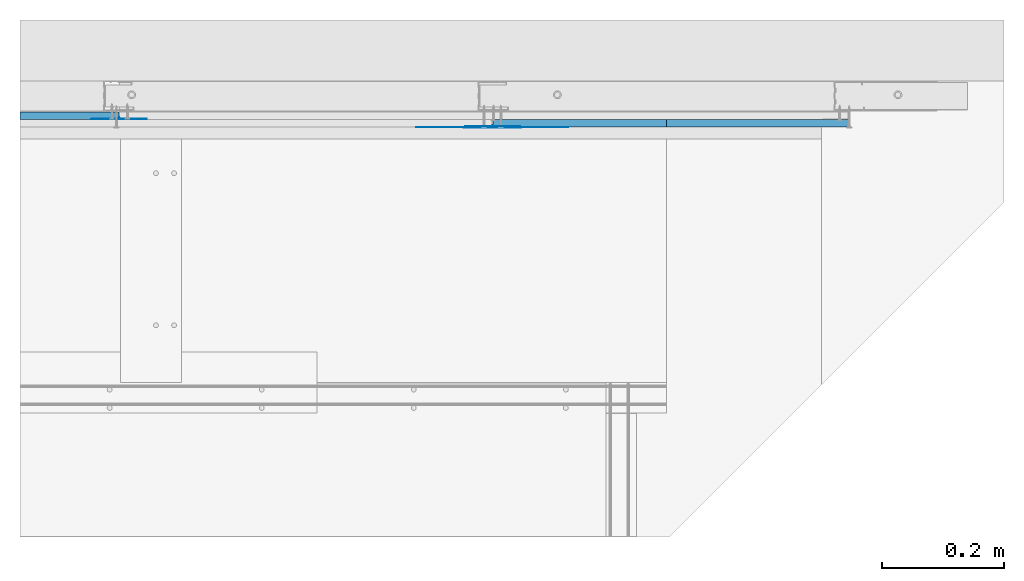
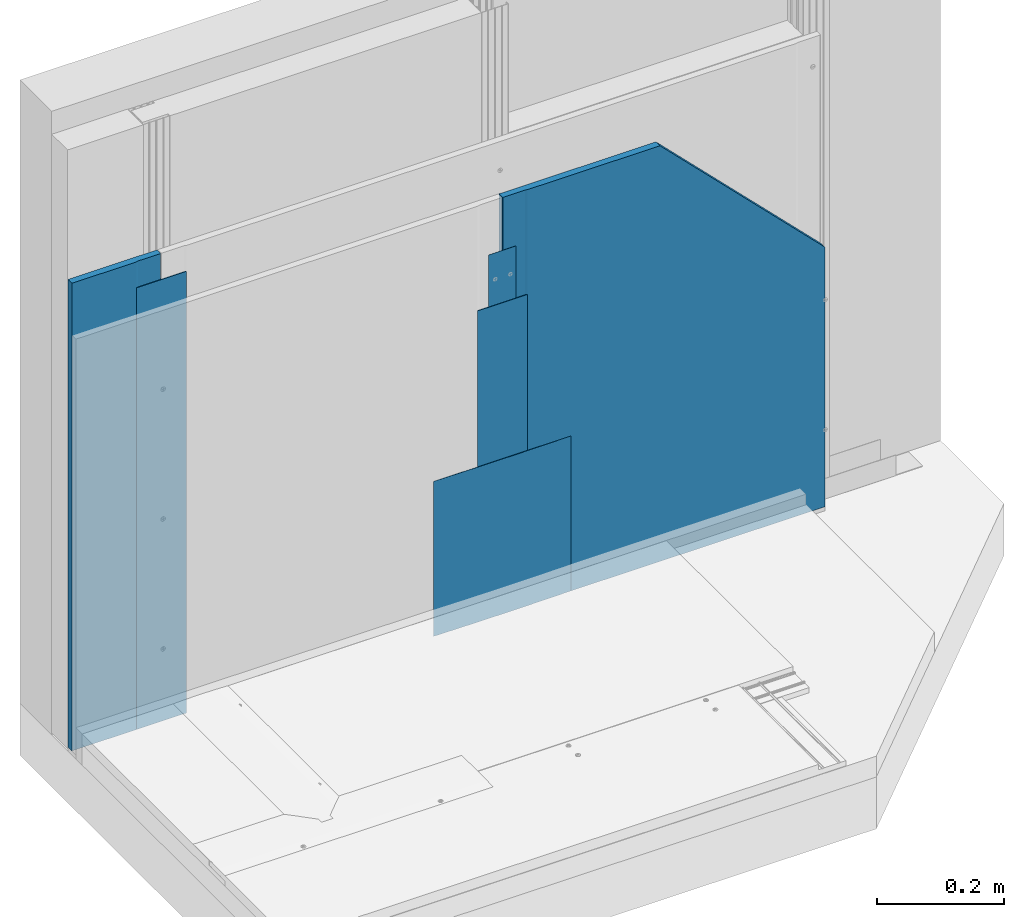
# One storey, part 16 of 38: 6 walls.
"""IFC2X3 building model written with IfcOpenShell, lengths in millimetres."""

from ifc_helpers import new_model, entity, si_unit, converted_unit, direction, frame, origin, origin_with_axes, place, context, project, spatial, faceted_brep, element, save


model = new_model("IFC2X3")

# Units and contexts
model_context = context("Model", 3, precision=1e-05, world=origin(), true_north=direction((0.0, 1.0, 0.0)))
ifc_project = project(units=[si_unit("LENGTHUNIT", "METRE", prefix="MILLI"), si_unit("AREAUNIT", "SQUARE_METRE"), si_unit("VOLUMEUNIT", "CUBIC_METRE"), converted_unit("PLANEANGLEUNIT", "DEGREE", entity("IfcPlaneAngleMeasure", 0.01745), si_unit("PLANEANGLEUNIT", "RADIAN"), dimensions=[0, 0, 0, 0, 0, 0, 0]), si_unit("SOLIDANGLEUNIT", "STERADIAN"), si_unit("MASSUNIT", "GRAM"), si_unit("TIMEUNIT", "SECOND"), si_unit("THERMODYNAMICTEMPERATUREUNIT", "DEGREE_CELSIUS"), si_unit("LUMINOUSINTENSITYUNIT", "LUMEN")], contexts=[model_context])

# Site, building, storey
site_placement = place(None, origin_with_axes())
site = spatial("IfcSite", under=ifc_project, at=site_placement, Name="Default Site", CompositionType="ELEMENT")
building_placement = place(site_placement, origin_with_axes())
building = spatial("IfcBuilding", under=site, at=building_placement, Name="Default Building", CompositionType="ELEMENT")
storey_placement = place(building_placement, origin_with_axes())
storey = spatial("IfcBuildingStorey", under=building, at=storey_placement, Name="Default Building Storey", CompositionType="ELEMENT", Elevation=0.0)

# Walls
wall_1_placement = place(storey_placement, frame((2165.047154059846, 5336.736799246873, 7.548421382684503), z_axis=(0.0, 0.0, 1.0), x_axis=(-1.0, 0.0, 0.0)))
element("IfcWall", 1, at=wall_1_placement, inside=storey, Name="Dedykowana masa szpachlowa Rigips - konstrukcyjna", context=model_context, shape_type="Brep", body=[
    faceted_brep([(-737.4838396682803, 3387.6695906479, 600.7999999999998), (-737.4592163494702, 3387.356721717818, 600.7999999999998), (-737.434593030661, 3387.6695906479, 600.7999999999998), (-737.3613293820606, 3387.974755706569, 600.7999999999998), (-737.2412293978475, 3388.264702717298, 600.7999999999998), (-737.07725033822, 3388.532292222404, 600.7999999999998), (-736.8734299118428, 3388.770935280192, 600.7999999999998), (-736.6347868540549, 3388.974755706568, 600.7999999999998), (-736.3671973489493, 3389.138734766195, 600.7999999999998), (-736.0772503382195, 3389.258834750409, 600.7999999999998), (-735.7720852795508, 3389.332098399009, 600.7999999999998), (-735.45921634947, 3389.356721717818, 600.7999999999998), (-692.4592163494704, 3389.356721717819, 600.7999999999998), (-691.4592163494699, 3390.556721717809, 600.7999999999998), (-782.4592163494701, 3390.556721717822, 600.7999999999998), (-782.4592163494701, 3389.356721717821, 600.7999999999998), (-739.4592163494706, 3389.356721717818, 600.7999999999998), (-739.1463474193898, 3389.332098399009, 600.7999999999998), (-738.8411823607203, 3389.258834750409, 600.7999999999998), (-738.5512353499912, 3389.138734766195, 600.7999999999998), (-738.2836458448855, 3388.974755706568, 600.7999999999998), (-738.0450027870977, 3388.770935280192, 600.7999999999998), (-737.8411823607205, 3388.532292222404, 600.7999999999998), (-737.6772033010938, 3388.264702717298, 600.7999999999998), (-737.55710331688, 3387.974755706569, 600.7999999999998), (-691.4592163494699, 3390.556721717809, 2.449996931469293), (-692.4592163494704, 3389.356721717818, 2.449996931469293), (-735.45921634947, 3389.356721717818, 2.449996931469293), (-735.7720852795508, 3389.332098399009, 2.449996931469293), (-736.0772503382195, 3389.258834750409, 2.449996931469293), (-736.3671973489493, 3389.138734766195, 2.449996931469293), (-736.6347868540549, 3388.974755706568, 2.449996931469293), (-736.8734299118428, 3388.770935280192, 2.449996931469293), (-737.07725033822, 3388.532292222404, 2.449996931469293), (-737.2412293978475, 3388.264702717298, 2.449996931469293), (-737.3613293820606, 3387.974755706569, 2.449996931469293), (-737.434593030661, 3387.6695906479, 2.449996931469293), (-737.4592163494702, 3387.356721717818, 2.449996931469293), (-737.4838396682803, 3387.6695906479, 2.449996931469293), (-737.55710331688, 3387.974755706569, 2.449996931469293), (-737.6772033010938, 3388.264702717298, 2.449996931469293), (-737.8411823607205, 3388.532292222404, 2.449996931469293), (-738.0450027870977, 3388.770935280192, 2.449996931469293), (-738.2836458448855, 3388.974755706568, 2.449996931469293), (-738.5512353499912, 3389.138734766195, 2.449996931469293), (-738.8411823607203, 3389.258834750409, 2.449996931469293), (-739.1463474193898, 3389.332098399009, 2.449996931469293), (-739.4592163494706, 3389.356721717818, 2.449996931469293), (-782.4592163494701, 3389.356721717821, 2.449996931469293), (-782.4592163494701, 3390.556721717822, 2.449996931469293)], [[[0, 1, 2, 3, 4, 5, 6, 7, 8, 9, 10, 11, 12, 13, 14, 15, 16, 17, 18, 19, 20, 21, 22, 23, 24]], [[25, 26, 27, 28, 29, 30, 31, 32, 33, 34, 35, 36, 37, 38, 39, 40, 41, 42, 43, 44, 45, 46, 47, 48, 49]], [[26, 12, 11, 27]], [[10, 9, 29, 28]], [[28, 27, 11, 10]], [[8, 30, 29, 9]], [[7, 6, 32, 31]], [[31, 30, 8, 7]], [[5, 4, 34, 33]], [[33, 32, 6, 5]], [[3, 35, 34, 4]], [[2, 1, 37, 36]], [[36, 35, 3, 2]], [[0, 24, 39, 38]], [[38, 37, 1, 0]], [[23, 40, 39, 24]], [[22, 21, 42, 41]], [[41, 40, 23, 22]], [[20, 19, 44, 43]], [[43, 42, 21, 20]], [[18, 45, 44, 19]], [[17, 16, 47, 46]], [[46, 45, 18, 17]], [[47, 16, 15, 48]], [[48, 15, 14, 49]], [[49, 14, 13, 25]], [[25, 13, 12, 26]]]),
])
wall_2_placement = place(storey_placement, frame((3638.965586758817, 5336.736799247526, 7.548421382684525), z_axis=(0.0, 0.0, 1.0), x_axis=(1.0, 0.0, 0.0)))
element("IfcWall", 2, at=wall_2_placement, inside=storey, Name="Taśma spoinowa RIGIPS", context=model_context, shape_type="Brep", body=[
    faceted_brep([(-712.4592163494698, -3389.356721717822, 700.7999999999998), (-712.4592163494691, -3389.856721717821, 700.7999999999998), (-762.4592163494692, -3389.856721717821, 700.7999999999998), (-762.45921634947, -3389.35672171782, 700.7999999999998), (-712.4592163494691, -3389.856721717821, 2.449996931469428), (-712.4592163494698, -3389.35672171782, 2.449996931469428), (-762.45921634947, -3389.35672171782, 2.449996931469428), (-762.4592163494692, -3389.856721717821, 2.449996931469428)], [[[0, 1, 2, 3]], [[4, 5, 6, 7]], [[5, 0, 3, 6]], [[6, 3, 2, 7]], [[7, 2, 1, 4]], [[4, 1, 0, 5]]]),
])
wall_3_placement = place(storey_placement, frame((2902.506370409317, 1958.680077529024, 1059.999999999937), z_axis=(0.0, 0.0, 1.0), x_axis=(1.0, 0.0, 0.0)))
element("IfcWall", 3, at=wall_3_placement, inside=storey, Name="Płyta gipsowo-kartonowa RIGIPS PRO (4PRO™)", context=model_context, shape_type="Brep", body=[
    faceted_brep([(585.923278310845, -12.49999999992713, -550.0000000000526), (285.9232783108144, -12.49999999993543, -250.0000000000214), (285.9232783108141, 4.475850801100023e-11, -250.0000000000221), (585.923278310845, 5.306048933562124e-11, -550.0000000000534), (585.9232783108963, -12.5000000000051, -1050.001581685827), (44.99999999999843, -12.50000000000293, -1050.001581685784), (44.99999999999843, -12.50000000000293, -249.9999999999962), (585.9232783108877, -3.609557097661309e-12, -1050.001581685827), (40.99999999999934, -11.50000000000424, -249.9999999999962), (40.99999999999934, -11.50000000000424, -1050.001581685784), (0.9999999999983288, -11.5000000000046, -249.9999999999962), (0.9999999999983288, -11.5000000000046, -1050.001581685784), (0.7411809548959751, -11.46592582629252, -249.9999999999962), (0.7411809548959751, -11.46592582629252, -1050.001581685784), (0.4999999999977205, -11.3660254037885, -249.9999999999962), (0.4999999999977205, -11.3660254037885, -1050.001581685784), (0.29289321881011, -11.20710678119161, -249.9999999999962), (0.29289321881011, -11.20710678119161, -1050.001581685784), (0.1339745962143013, -11.00000000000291, -249.9999999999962), (0.1339745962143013, -11.00000000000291, -1050.001581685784), (0.03407417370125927, -10.7588190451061, -249.9999999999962), (0.03407417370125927, -10.7588190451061, -1050.001581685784), (-3.97051280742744e-12, -10.50000000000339, -249.9999999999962), (-3.97051280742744e-12, -10.50000000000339, -1050.001581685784), (0.0, 0.0, -249.9999999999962), (0.0, 0.0, -1050.001581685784)], [[[0, 1, 2, 3]], [[0, 4, 5, 6, 1]], [[3, 7, 4, 0]], [[8, 6, 5, 9]], [[10, 8, 9, 11]], [[12, 10, 11, 13]], [[14, 12, 13, 15]], [[16, 14, 15, 17]], [[18, 16, 17, 19]], [[20, 18, 19, 21]], [[22, 20, 21, 23]], [[24, 22, 23, 25]], [[25, 7, 3, 2, 24]], [[5, 4, 7, 25, 23, 21, 19, 17, 15, 13, 11, 9]], [[2, 1, 6, 8, 10, 12, 14, 16, 18, 20, 22, 24]]]),
])
wall_4_placement = place(storey_placement, frame((3638.965586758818, 5336.736799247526, 7.548421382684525), z_axis=(0.0, 0.0, 1.0), x_axis=(1.0, 0.0, 0.0)))
element("IfcWall", 4, at=wall_4_placement, inside=storey, Name="Dedykowana masa szpachlowa Rigips - wykończeniowa", context=model_context, shape_type="Brep", body=[
    faceted_brep([(-612.459216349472, -3390.556721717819, 2.449996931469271), (-862.459216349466, -3390.556721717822, 2.449996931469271), (-812.4612643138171, -3391.196716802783, 2.449996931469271), (-762.4602403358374, -3391.516720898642, 2.449996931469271), (-712.458192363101, -3391.516720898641, 2.449996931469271), (-662.4571683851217, -3391.19671680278, 2.449996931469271), (-762.4602403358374, -3391.516720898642, 300.8000000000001), (-812.4612643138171, -3391.196716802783, 300.8000000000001), (-862.459216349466, -3390.556721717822, 300.8000000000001), (-612.459216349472, -3390.556721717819, 300.8000000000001), (-662.4571683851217, -3391.19671680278, 300.8000000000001), (-712.458192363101, -3391.516720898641, 300.8000000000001)], [[[0, 1, 2, 3, 4, 5]], [[6, 7, 8, 9, 10, 11]], [[9, 0, 5, 10]], [[10, 5, 4, 11]], [[11, 4, 3, 6]], [[6, 3, 2, 7]], [[1, 8, 7, 2]], [[0, 9, 8, 1]]]),
])
wall_5_placement = place(storey_placement, frame((1550.970432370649, 5349.236799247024, 259.1999999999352), z_axis=(0.0, 0.0, 1.0), x_axis=(-1.0, 0.0, 0.0)))
element("IfcWall", 5, at=wall_5_placement, inside=storey, Name="Dedykowana masa szpachlowa Rigips - konstrukcyjna", context=model_context, shape_type="Brep", body=[
    faceted_brep([(-737.4838396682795, 3387.669590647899, 600.7999999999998), (-737.4592163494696, 3387.356721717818, 600.7999999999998), (-737.4345930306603, 3387.669590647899, 600.7999999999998), (-737.3613293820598, 3387.974755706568, 600.7999999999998), (-737.2412293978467, 3388.264702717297, 600.7999999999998), (-737.0772503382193, 3388.532292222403, 600.7999999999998), (-736.8734299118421, 3388.770935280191, 600.7999999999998), (-736.6347868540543, 3388.974755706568, 600.7999999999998), (-736.3671973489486, 3389.138734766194, 600.7999999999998), (-736.0772503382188, 3389.258834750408, 600.7999999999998), (-735.7720852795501, 3389.332098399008, 600.7999999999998), (-735.4592163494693, 3389.356721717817, 600.7999999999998), (-692.4592163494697, 3389.356721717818, 600.7999999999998), (-691.4592163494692, 3390.556721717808, 600.7999999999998), (-782.4592163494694, 3390.556721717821, 600.7999999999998), (-782.4592163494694, 3389.356721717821, 600.7999999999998), (-739.4592163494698, 3389.356721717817, 600.7999999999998), (-739.146347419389, 3389.332098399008, 600.7999999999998), (-738.8411823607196, 3389.258834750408, 600.7999999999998), (-738.5512353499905, 3389.138734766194, 600.7999999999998), (-738.2836458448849, 3388.974755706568, 600.7999999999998), (-738.045002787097, 3388.770935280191, 600.7999999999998), (-737.8411823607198, 3388.532292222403, 600.7999999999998), (-737.6772033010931, 3388.264702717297, 600.7999999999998), (-737.5571033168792, 3387.974755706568, 600.7999999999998), (-691.4592163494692, 3390.556721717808, -249.2015816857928), (-692.4592163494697, 3389.356721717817, -249.2015816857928), (-735.4592163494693, 3389.356721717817, -249.2015816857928), (-735.7720852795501, 3389.332098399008, -249.2015816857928), (-736.0772503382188, 3389.258834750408, -249.2015816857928), (-736.3671973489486, 3389.138734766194, -249.2015816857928), (-736.6347868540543, 3388.974755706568, -249.2015816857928), (-736.8734299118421, 3388.77093528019, -249.2015816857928), (-737.0772503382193, 3388.532292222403, -249.2015816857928), (-737.2412293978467, 3388.264702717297, -249.2015816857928), (-737.3613293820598, 3387.974755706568, -249.2015816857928), (-737.4345930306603, 3387.669590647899, -249.2015816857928), (-737.4592163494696, 3387.356721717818, -249.2015816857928), (-737.4838396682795, 3387.669590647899, -249.2015816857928), (-737.5571033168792, 3387.974755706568, -249.2015816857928), (-737.6772033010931, 3388.264702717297, -249.2015816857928), (-737.8411823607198, 3388.532292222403, -249.2015816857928), (-738.045002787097, 3388.77093528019, -249.2015816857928), (-738.2836458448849, 3388.974755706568, -249.2015816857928), (-738.5512353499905, 3389.138734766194, -249.2015816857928), (-738.8411823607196, 3389.258834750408, -249.2015816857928), (-739.146347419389, 3389.332098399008, -249.2015816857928), (-739.4592163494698, 3389.356721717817, -249.2015816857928), (-782.4592163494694, 3389.356721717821, -249.2015816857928), (-782.4592163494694, 3390.556721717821, -249.2015816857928)], [[[0, 1, 2, 3, 4, 5, 6, 7, 8, 9, 10, 11, 12, 13, 14, 15, 16, 17, 18, 19, 20, 21, 22, 23, 24]], [[25, 26, 27, 28, 29, 30, 31, 32, 33, 34, 35, 36, 37, 38, 39, 40, 41, 42, 43, 44, 45, 46, 47, 48, 49]], [[26, 12, 11, 27]], [[10, 9, 29, 28]], [[28, 27, 11, 10]], [[8, 30, 29, 9]], [[7, 6, 32, 31]], [[31, 30, 8, 7]], [[5, 4, 34, 33]], [[33, 32, 6, 5]], [[3, 35, 34, 4]], [[2, 1, 37, 36]], [[36, 35, 3, 2]], [[0, 24, 39, 38]], [[38, 37, 1, 0]], [[23, 40, 39, 24]], [[22, 21, 42, 41]], [[41, 40, 23, 22]], [[20, 19, 44, 43]], [[43, 42, 21, 20]], [[18, 45, 44, 19]], [[17, 16, 47, 46]], [[46, 45, 18, 17]], [[47, 16, 15, 48]], [[48, 15, 14, 49]], [[49, 14, 13, 25]], [[25, 13, 12, 26]]]),
])
wall_6_placement = place(storey_placement, frame((2287.429648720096, 1971.180077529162, 1159.999999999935), z_axis=(0.0, 0.0, 1.0), x_axis=(-1.0, 0.0, 0.0)))
element("IfcWall", 6, at=wall_6_placement, inside=storey, Name="Płyta gipsowo-kartonowa RIGIPS PRO (4PRO™)", context=model_context, shape_type="Brep", body=[
    faceted_brep([(162.4045152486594, 12.4999999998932, -250.0000000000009), (162.4045152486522, -1.082867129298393e-10, -250.0000000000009), (162.4045152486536, -1.079257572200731e-10, -1150.001581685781), (162.4045152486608, 12.49999999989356, -1150.001581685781), (0.0, 0.0, -249.9999999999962), (44.99999999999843, 12.50000000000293, -249.9999999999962), (40.99999999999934, 11.50000000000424, -249.9999999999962), (0.9999999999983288, 11.5000000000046, -249.9999999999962), (0.7411809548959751, 11.46592582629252, -249.9999999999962), (0.4999999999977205, 11.3660254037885, -249.9999999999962), (0.2928932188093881, 11.20710678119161, -249.9999999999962), (0.1339745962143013, 11.00000000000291, -249.9999999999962), (0.03407417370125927, 10.7588190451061, -249.9999999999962), (-2.887645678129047e-12, 10.50000000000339, -249.9999999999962), (44.99999999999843, 12.50000000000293, -1150.001581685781), (40.99999999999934, 11.50000000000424, -1150.001581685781), (0.9999999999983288, 11.5000000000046, -1150.001581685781), (0.7411809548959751, 11.46592582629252, -1150.001581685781), (0.4999999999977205, 11.3660254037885, -1150.001581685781), (0.2928932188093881, 11.20710678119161, -1150.001581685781), (0.1339745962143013, 11.00000000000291, -1150.001581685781), (0.03407417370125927, 10.7588190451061, -1150.001581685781), (-2.887645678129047e-12, 10.50000000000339, -1150.001581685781), (0.0, 0.0, -1150.001581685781)], [[[0, 1, 2, 3]], [[4, 1, 0, 5, 6, 7, 8, 9, 10, 11, 12, 13]], [[0, 3, 14, 5]], [[6, 5, 14, 15]], [[7, 6, 15, 16]], [[8, 7, 16, 17]], [[9, 8, 17, 18]], [[10, 9, 18, 19]], [[11, 10, 19, 20]], [[12, 11, 20, 21]], [[13, 12, 21, 22]], [[4, 13, 22, 23]], [[23, 2, 1, 4]], [[14, 3, 2, 23, 22, 21, 20, 19, 18, 17, 16, 15]]]),
])

save(model, "model.ifc")
